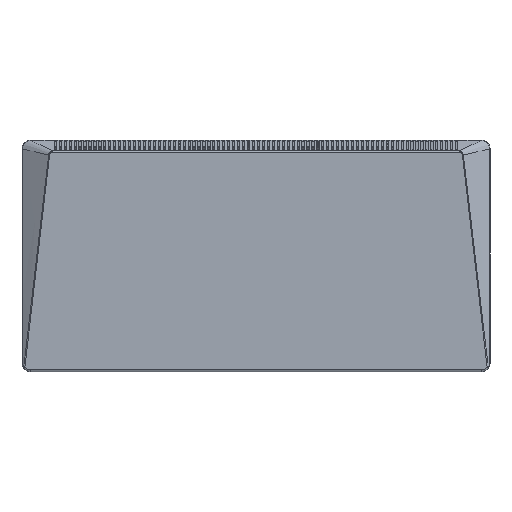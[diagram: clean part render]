
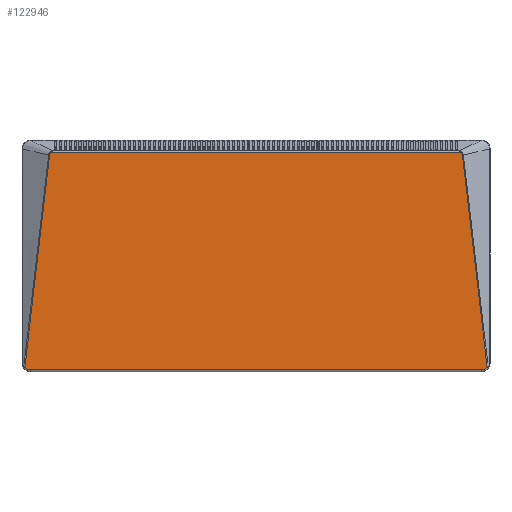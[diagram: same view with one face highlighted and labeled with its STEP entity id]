
A CAD part, top view. The second image highlights one B-rep face of the part: STEP entity #122946.
In plain terms, the highlighted planar face has unit normal (0, 0, 1).
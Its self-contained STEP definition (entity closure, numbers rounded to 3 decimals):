
#122946 = ADVANCED_FACE('',(#122947),#123087,.T.);
#122947 = FACE_BOUND('',#122948,.F.);
#122948 = EDGE_LOOP('',(#122949,#122985,#123004,#123012,#123031,#123063,
    #123072,#123080));
#122949 = ORIENTED_EDGE('',*,*,#122950,.F.);
#122950 = EDGE_CURVE('',#122951,#122953,#122955,.T.);
#122951 = VERTEX_POINT('',#122952);
#122952 = CARTESIAN_POINT('',(-374.95,182.919,52.));
#122953 = VERTEX_POINT('',#122954);
#122954 = CARTESIAN_POINT('',(-419.778,-201.956,52.));
#122955 = B_SPLINE_CURVE_WITH_KNOTS('',3,(#122956,#122957,#122958,
    #122959,#122960,#122961,#122962,#122963,#122964,#122965,#122966,
    #122967,#122968,#122969,#122970,#122971,#122972,#122973,#122974,
    #122975,#122976,#122977,#122978,#122979,#122980,#122981,#122982,
    #122983,#122984),.UNSPECIFIED.,.F.,.F.,(4,1,1,1,1,1,1,1,1,1,1,1,1,1,
    1,1,1,1,1,1,1,1,1,1,1,1,4),(0.,0.038,0.077
    ,0.115,0.154,0.192,0.231,
    0.269,0.308,0.346,0.385,
    0.423,0.462,0.5,0.538,0.577,
    0.615,0.654,0.692,0.731,
    0.769,0.808,0.846,0.885,
    0.923,0.962,1.),.UNSPECIFIED.);
#122956 = CARTESIAN_POINT('',(-374.95,182.919,52.));
#122957 = CARTESIAN_POINT('',(-376.271,171.636,52.));
#122958 = CARTESIAN_POINT('',(-378.824,149.835,52.));
#122959 = CARTESIAN_POINT('',(-382.368,119.557,52.));
#122960 = CARTESIAN_POINT('',(-385.676,91.298,52.));
#122961 = CARTESIAN_POINT('',(-388.786,64.724,52.));
#122962 = CARTESIAN_POINT('',(-391.743,39.451,52.));
#122963 = CARTESIAN_POINT('',(-394.563,15.347,52.));
#122964 = CARTESIAN_POINT('',(-397.225,-7.406,52.));
#122965 = CARTESIAN_POINT('',(-399.711,-28.669,52.));
#122966 = CARTESIAN_POINT('',(-402.028,-48.495,52.));
#122967 = CARTESIAN_POINT('',(-404.185,-66.959,52.));
#122968 = CARTESIAN_POINT('',(-406.169,-83.958,52.));
#122969 = CARTESIAN_POINT('',(-407.958,-99.293,52.));
#122970 = CARTESIAN_POINT('',(-409.547,-112.931,52.));
#122971 = CARTESIAN_POINT('',(-410.956,-125.035,52.));
#122972 = CARTESIAN_POINT('',(-412.21,-135.816,52.));
#122973 = CARTESIAN_POINT('',(-413.327,-145.443,52.));
#122974 = CARTESIAN_POINT('',(-414.325,-154.061,52.));
#122975 = CARTESIAN_POINT('',(-415.218,-161.79,52.));
#122976 = CARTESIAN_POINT('',(-416.018,-168.737,52.));
#122977 = CARTESIAN_POINT('',(-416.736,-174.992,52.));
#122978 = CARTESIAN_POINT('',(-417.382,-180.638,52.));
#122979 = CARTESIAN_POINT('',(-417.964,-185.748,52.));
#122980 = CARTESIAN_POINT('',(-418.489,-190.388,52.));
#122981 = CARTESIAN_POINT('',(-418.964,-194.616,52.));
#122982 = CARTESIAN_POINT('',(-419.394,-198.474,52.));
#122983 = CARTESIAN_POINT('',(-419.654,-200.834,52.));
#122984 = CARTESIAN_POINT('',(-419.778,-201.956,52.));
#122985 = ORIENTED_EDGE('',*,*,#122986,.F.);
#122986 = EDGE_CURVE('',#122987,#122951,#122989,.T.);
#122987 = VERTEX_POINT('',#122988);
#122988 = CARTESIAN_POINT('',(-369.742,188.259,52.));
#122989 = B_SPLINE_CURVE_WITH_KNOTS('',3,(#122990,#122991,#122992,
    #122993,#122994,#122995,#122996,#122997,#122998,#122999,#123000,
    #123001,#123002,#123003),.UNSPECIFIED.,.F.,.F.,(4,1,1,1,1,1,1,1,1,1,
    1,4),(0.,0.091,0.182,0.273,
    0.364,0.455,0.545,0.636,
    0.727,0.818,0.909,1.),.UNSPECIFIED.);
#122990 = CARTESIAN_POINT('',(-369.742,188.259,52.));
#122991 = CARTESIAN_POINT('',(-369.89,188.259,52.));
#122992 = CARTESIAN_POINT('',(-370.204,188.237,52.));
#122993 = CARTESIAN_POINT('',(-370.735,188.128,52.));
#122994 = CARTESIAN_POINT('',(-371.33,187.925,52.));
#122995 = CARTESIAN_POINT('',(-371.958,187.615,52.));
#122996 = CARTESIAN_POINT('',(-372.616,187.171,52.));
#122997 = CARTESIAN_POINT('',(-373.264,186.584,52.));
#122998 = CARTESIAN_POINT('',(-373.828,185.895,52.));
#122999 = CARTESIAN_POINT('',(-374.25,185.205,52.));
#123000 = CARTESIAN_POINT('',(-374.558,184.534,52.));
#123001 = CARTESIAN_POINT('',(-374.799,183.809,52.));
#123002 = CARTESIAN_POINT('',(-374.914,183.229,52.));
#123003 = CARTESIAN_POINT('',(-374.95,182.919,52.));
#123004 = ORIENTED_EDGE('',*,*,#123005,.F.);
#123005 = EDGE_CURVE('',#123006,#122987,#123008,.T.);
#123006 = VERTEX_POINT('',#123007);
#123007 = CARTESIAN_POINT('',(369.742,188.259,52.));
#123008 = LINE('',#123009,#123010);
#123009 = CARTESIAN_POINT('',(369.742,188.259,52.));
#123010 = VECTOR('',#123011,1.);
#123011 = DIRECTION('',(-1.,0.,0.));
#123012 = ORIENTED_EDGE('',*,*,#123013,.F.);
#123013 = EDGE_CURVE('',#123014,#123006,#123016,.T.);
#123014 = VERTEX_POINT('',#123015);
#123015 = CARTESIAN_POINT('',(374.95,182.919,52.));
#123016 = B_SPLINE_CURVE_WITH_KNOTS('',3,(#123017,#123018,#123019,
    #123020,#123021,#123022,#123023,#123024,#123025,#123026,#123027,
    #123028,#123029,#123030),.UNSPECIFIED.,.F.,.F.,(4,1,1,1,1,1,1,1,1,1,
    1,4),(0.,0.091,0.182,0.273,
    0.364,0.455,0.545,0.636,
    0.727,0.818,0.909,1.),.UNSPECIFIED.);
#123017 = CARTESIAN_POINT('',(374.95,182.919,52.));
#123018 = CARTESIAN_POINT('',(374.904,183.319,52.));
#123019 = CARTESIAN_POINT('',(374.741,184.064,52.));
#123020 = CARTESIAN_POINT('',(374.351,185.03,52.));
#123021 = CARTESIAN_POINT('',(373.872,185.835,52.));
#123022 = CARTESIAN_POINT('',(373.343,186.493,52.));
#123023 = CARTESIAN_POINT('',(372.788,187.024,52.));
#123024 = CARTESIAN_POINT('',(372.231,187.441,52.));
#123025 = CARTESIAN_POINT('',(371.681,187.759,52.));
#123026 = CARTESIAN_POINT('',(371.165,187.986,52.));
#123027 = CARTESIAN_POINT('',(370.659,188.146,52.));
#123028 = CARTESIAN_POINT('',(370.155,188.242,52.));
#123029 = CARTESIAN_POINT('',(369.874,188.259,52.));
#123030 = CARTESIAN_POINT('',(369.742,188.259,52.));
#123031 = ORIENTED_EDGE('',*,*,#123032,.F.);
#123032 = EDGE_CURVE('',#123033,#123014,#123035,.T.);
#123033 = VERTEX_POINT('',#123034);
#123034 = CARTESIAN_POINT('',(419.778,-201.956,52.));
#123035 = B_SPLINE_CURVE_WITH_KNOTS('',3,(#123036,#123037,#123038,
    #123039,#123040,#123041,#123042,#123043,#123044,#123045,#123046,
    #123047,#123048,#123049,#123050,#123051,#123052,#123053,#123054,
    #123055,#123056,#123057,#123058,#123059,#123060,#123061,#123062),
  .UNSPECIFIED.,.F.,.F.,(4,1,1,1,1,1,1,1,1,1,1,1,1,1,1,1,1,1,1,1,1,1,1,1
    ,4),(0.,0.042,0.083,0.125,0.167,
    0.208,0.25,0.292,0.333,0.375,
    0.417,0.458,0.5,0.542,0.583,
    0.625,0.667,0.708,0.75,0.792,
    0.833,0.875,0.917,0.958,1.),
  .UNSPECIFIED.);
#123036 = CARTESIAN_POINT('',(419.778,-201.956,52.));
#123037 = CARTESIAN_POINT('',(419.649,-200.786,52.));
#123038 = CARTESIAN_POINT('',(419.376,-198.312,52.));
#123039 = CARTESIAN_POINT('',(418.921,-194.231,52.));
#123040 = CARTESIAN_POINT('',(418.411,-189.702,52.));
#123041 = CARTESIAN_POINT('',(417.842,-184.678,52.));
#123042 = CARTESIAN_POINT('',(417.206,-179.094,52.));
#123043 = CARTESIAN_POINT('',(416.493,-172.87,52.));
#123044 = CARTESIAN_POINT('',(415.694,-165.921,52.));
#123045 = CARTESIAN_POINT('',(414.797,-158.147,52.));
#123046 = CARTESIAN_POINT('',(413.789,-149.427,52.));
#123047 = CARTESIAN_POINT('',(412.651,-139.62,52.));
#123048 = CARTESIAN_POINT('',(411.366,-128.554,52.));
#123049 = CARTESIAN_POINT('',(409.908,-116.029,52.));
#123050 = CARTESIAN_POINT('',(408.251,-101.808,52.));
#123051 = CARTESIAN_POINT('',(406.361,-85.597,52.));
#123052 = CARTESIAN_POINT('',(404.201,-67.095,52.));
#123053 = CARTESIAN_POINT('',(401.771,-46.294,52.));
#123054 = CARTESIAN_POINT('',(399.129,-23.692,52.));
#123055 = CARTESIAN_POINT('',(396.338,0.172,52.));
#123056 = CARTESIAN_POINT('',(393.402,25.28,52.));
#123057 = CARTESIAN_POINT('',(390.276,51.99,52.));
#123058 = CARTESIAN_POINT('',(386.897,80.867,52.));
#123059 = CARTESIAN_POINT('',(383.237,112.135,52.));
#123060 = CARTESIAN_POINT('',(379.283,145.915,52.));
#123061 = CARTESIAN_POINT('',(376.43,170.286,52.));
#123062 = CARTESIAN_POINT('',(374.95,182.919,52.));
#123063 = ORIENTED_EDGE('',*,*,#123064,.F.);
#123064 = EDGE_CURVE('',#123065,#123033,#123067,.T.);
#123065 = VERTEX_POINT('',#123066);
#123066 = CARTESIAN_POINT('',(410.,-207.,52.));
#123067 = CIRCLE('',#123068,12.);
#123068 = AXIS2_PLACEMENT_3D('',#123069,#123070,#123071);
#123069 = CARTESIAN_POINT('',(410.,-195.,52.));
#123070 = DIRECTION('',(0.,0.,1.));
#123071 = DIRECTION('',(0.,-1.,0.));
#123072 = ORIENTED_EDGE('',*,*,#123073,.F.);
#123073 = EDGE_CURVE('',#123074,#123065,#123076,.T.);
#123074 = VERTEX_POINT('',#123075);
#123075 = CARTESIAN_POINT('',(-410.,-207.,52.));
#123076 = LINE('',#123077,#123078);
#123077 = CARTESIAN_POINT('',(-410.,-207.,52.));
#123078 = VECTOR('',#123079,1.);
#123079 = DIRECTION('',(1.,0.,0.));
#123080 = ORIENTED_EDGE('',*,*,#123081,.F.);
#123081 = EDGE_CURVE('',#122953,#123074,#123082,.T.);
#123082 = CIRCLE('',#123083,12.);
#123083 = AXIS2_PLACEMENT_3D('',#123084,#123085,#123086);
#123084 = CARTESIAN_POINT('',(-410.,-195.,52.));
#123085 = DIRECTION('',(0.,0.,1.));
#123086 = DIRECTION('',(-0.815,-0.58,0.));
#123087 = PLANE('',#123088);
#123088 = AXIS2_PLACEMENT_3D('',#123089,#123090,#123091);
#123089 = CARTESIAN_POINT('',(0.,0.,52.));
#123090 = DIRECTION('',(0.,0.,1.));
#123091 = DIRECTION('',(1.,0.,-0.));
